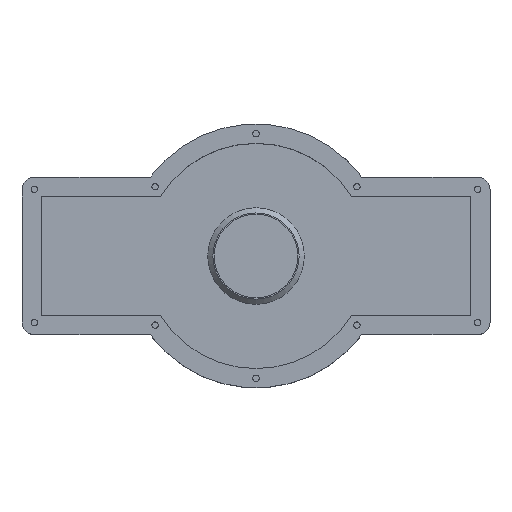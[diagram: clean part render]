
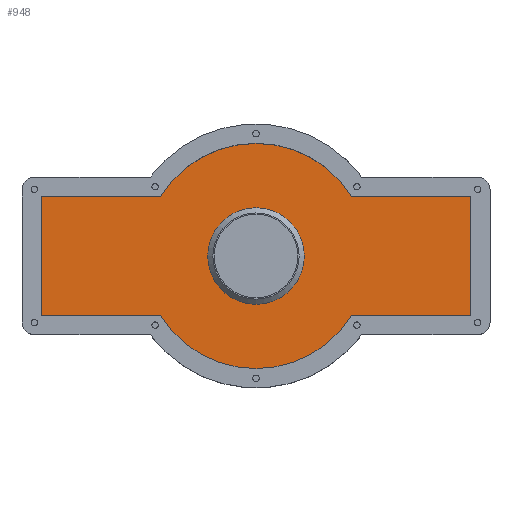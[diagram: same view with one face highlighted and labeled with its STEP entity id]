
A CAD part, top view. The second image highlights one B-rep face of the part: STEP entity #948.
In plain terms, the highlighted planar face has unit normal (0, 0, 1).
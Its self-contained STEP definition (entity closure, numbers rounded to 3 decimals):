
#30=FACE_BOUND('',#180,.T.);
#50=PLANE('',#1034);
#112=FACE_OUTER_BOUND('',#179,.T.);
#179=EDGE_LOOP('',(#689,#690,#691,#692,#693,#694,#695,#696));
#180=EDGE_LOOP('',(#697));
#261=LINE('',#1508,#328);
#262=LINE('',#1512,#329);
#263=LINE('',#1514,#330);
#264=LINE('',#1516,#331);
#265=LINE('',#1520,#332);
#266=LINE('',#1521,#333);
#328=VECTOR('',#1183,10.);
#329=VECTOR('',#1186,10.);
#330=VECTOR('',#1187,10.);
#331=VECTOR('',#1188,10.);
#332=VECTOR('',#1191,10.);
#333=VECTOR('',#1192,10.);
#394=CIRCLE('',#1028,15.);
#397=CIRCLE('',#1035,35.);
#398=CIRCLE('',#1036,35.);
#457=VERTEX_POINT('',#1494);
#460=VERTEX_POINT('',#1506);
#461=VERTEX_POINT('',#1507);
#462=VERTEX_POINT('',#1509);
#463=VERTEX_POINT('',#1511);
#464=VERTEX_POINT('',#1513);
#465=VERTEX_POINT('',#1515);
#466=VERTEX_POINT('',#1517);
#467=VERTEX_POINT('',#1519);
#544=EDGE_CURVE('',#457,#457,#394,.T.);
#548=EDGE_CURVE('',#460,#461,#261,.T.);
#549=EDGE_CURVE('',#461,#462,#397,.T.);
#550=EDGE_CURVE('',#462,#463,#262,.T.);
#551=EDGE_CURVE('',#463,#464,#263,.T.);
#552=EDGE_CURVE('',#464,#465,#264,.T.);
#553=EDGE_CURVE('',#465,#466,#398,.T.);
#554=EDGE_CURVE('',#466,#467,#265,.T.);
#555=EDGE_CURVE('',#467,#460,#266,.T.);
#689=ORIENTED_EDGE('',*,*,#548,.T.);
#690=ORIENTED_EDGE('',*,*,#549,.T.);
#691=ORIENTED_EDGE('',*,*,#550,.T.);
#692=ORIENTED_EDGE('',*,*,#551,.T.);
#693=ORIENTED_EDGE('',*,*,#552,.T.);
#694=ORIENTED_EDGE('',*,*,#553,.T.);
#695=ORIENTED_EDGE('',*,*,#554,.T.);
#696=ORIENTED_EDGE('',*,*,#555,.T.);
#697=ORIENTED_EDGE('',*,*,#544,.T.);
#948=ADVANCED_FACE('',(#112,#30),#50,.T.);
#1028=AXIS2_PLACEMENT_3D('',#1496,#1168,#1169);
#1034=AXIS2_PLACEMENT_3D('',#1505,#1181,#1182);
#1035=AXIS2_PLACEMENT_3D('',#1510,#1184,#1185);
#1036=AXIS2_PLACEMENT_3D('',#1518,#1189,#1190);
#1168=DIRECTION('center_axis',(0.,0.,-1.));
#1169=DIRECTION('ref_axis',(1.,0.,0.));
#1181=DIRECTION('center_axis',(0.,0.,1.));
#1182=DIRECTION('ref_axis',(1.,0.,0.));
#1183=DIRECTION('',(-1.,0.,0.));
#1184=DIRECTION('center_axis',(0.,0.,1.));
#1185=DIRECTION('ref_axis',(0.849,0.529,0.));
#1186=DIRECTION('',(-1.,0.,0.));
#1187=DIRECTION('',(0.,-1.,0.));
#1188=DIRECTION('',(1.,0.,0.));
#1189=DIRECTION('center_axis',(0.,0.,1.));
#1190=DIRECTION('ref_axis',(-0.849,-0.529,0.));
#1191=DIRECTION('',(1.,0.,0.));
#1192=DIRECTION('',(0.,1.,0.));
#1494=CARTESIAN_POINT('',(-15.,0.,3.));
#1496=CARTESIAN_POINT('Origin',(0.,0.,3.));
#1505=CARTESIAN_POINT('Origin',(0.,0.,
3.));
#1506=CARTESIAN_POINT('',(66.711,18.5,3.));
#1507=CARTESIAN_POINT('',(29.711,18.5,3.));
#1508=CARTESIAN_POINT('',(29.711,18.5,3.));
#1509=CARTESIAN_POINT('',(-29.711,18.5,3.));
#1510=CARTESIAN_POINT('Origin',(0.,0.,3.));
#1511=CARTESIAN_POINT('',(-66.711,18.5,3.));
#1512=CARTESIAN_POINT('',(-66.711,18.5,3.));
#1513=CARTESIAN_POINT('',(-66.711,-18.5,3.));
#1514=CARTESIAN_POINT('',(-66.711,-18.5,3.));
#1515=CARTESIAN_POINT('',(-29.711,-18.5,3.));
#1516=CARTESIAN_POINT('',(-29.711,-18.5,3.));
#1517=CARTESIAN_POINT('',(29.711,-18.5,3.));
#1518=CARTESIAN_POINT('Origin',(0.,0.,3.));
#1519=CARTESIAN_POINT('',(66.711,-18.5,3.));
#1520=CARTESIAN_POINT('',(66.711,-18.5,3.));
#1521=CARTESIAN_POINT('',(66.711,18.5,3.));
